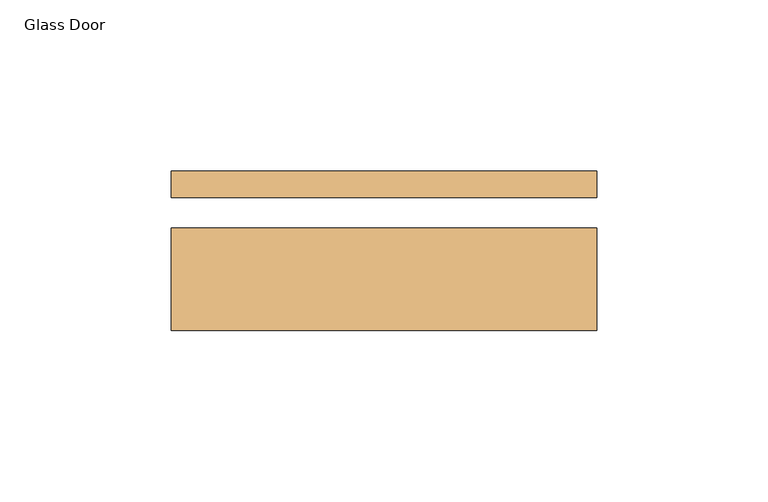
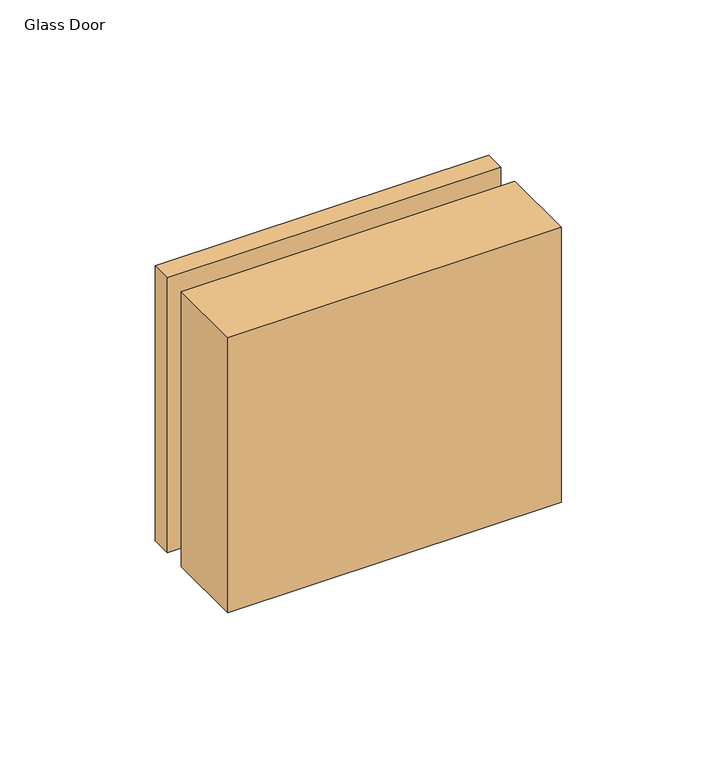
"""IFC4 building model written with IfcOpenShell, lengths in millimetres: door geometry, Door-Hinged_Glass_Full_Height-Teknion-Altos-Left_Swing : Glass Door."""

from ifc_helpers import new_model, si_unit, frame, origin, place, context, project, spatial, polyline, outline, extrude, source, transform, mapped, element, save


def glass_door_08374f17(model_context):
    return source(origin(), model_context, "Body", "SweptSolid", [
        extrude(outline(polyline([(473.5571289, -11.6290893), (473.5571289, -41.4740893), (349.5642266, -41.4740893), (349.5642266, -11.6290893), (473.5571289, -11.6290893)])), frame((0.0, 0.0, 952.4309645), z_axis=(0.0, 0.0, 1.0), x_axis=(1.0, 0.0, 0.0)), (0.0, 0.0, 1.0), 108.090611),
        extrude(outline(polyline([(349.5642266, -2.6120893), (349.5642266, 5.0079107), (473.5571289, 5.0079107), (473.5571289, -2.6120893), (349.5642266, -2.6120893)])), frame((0.0, 0.0, 952.4309645), z_axis=(0.0, 0.0, 1.0), x_axis=(1.0, 0.0, 0.0)), (0.0, 0.0, 1.0), 108.090611),
    ])


if __name__ == "__main__":
    model = new_model("IFC4")
    model_context = context("Model", 3, world=origin())
    ifc_project = project(units=[si_unit("LENGTHUNIT", "METRE", prefix="MILLI")], contexts=[model_context])
    site = spatial("IfcSite", under=ifc_project)
    building = spatial("IfcBuilding", under=site)
    placement = place(None, origin())
    glass_door_shape = glass_door_08374f17(model_context)
    element("IfcDoor", 1, ObjectType="Door-Hinged_Glass_Full_Height-Teknion-Altos-Left_Swing : Glass Door", at=placement, inside=building, context=model_context, shape_type="MappedRepresentation", body=[
        mapped(glass_door_shape, transform((0.0, 0.0, 0.0), x_axis=(1.0, 0.0, 0.0), y_axis=(0.0, 1.0, 0.0), z_axis=(0.0, 0.0, 1.0))),
    ])
    save(model, "model.ifc")
